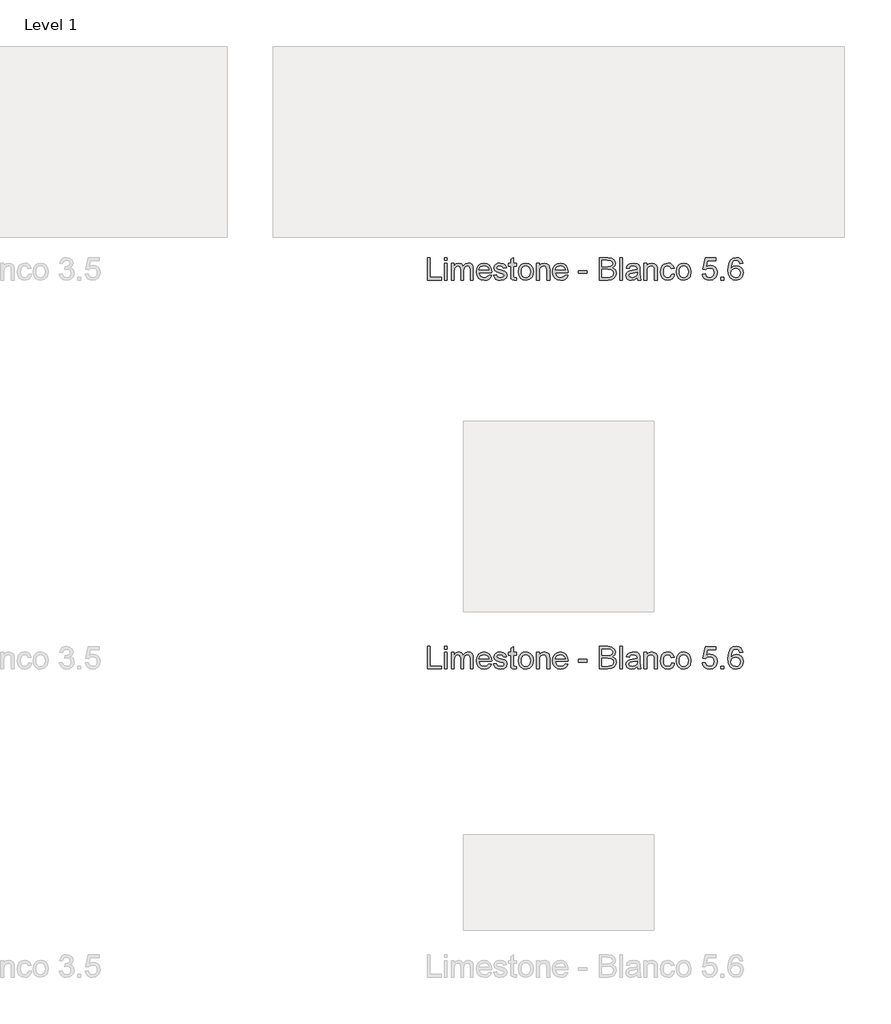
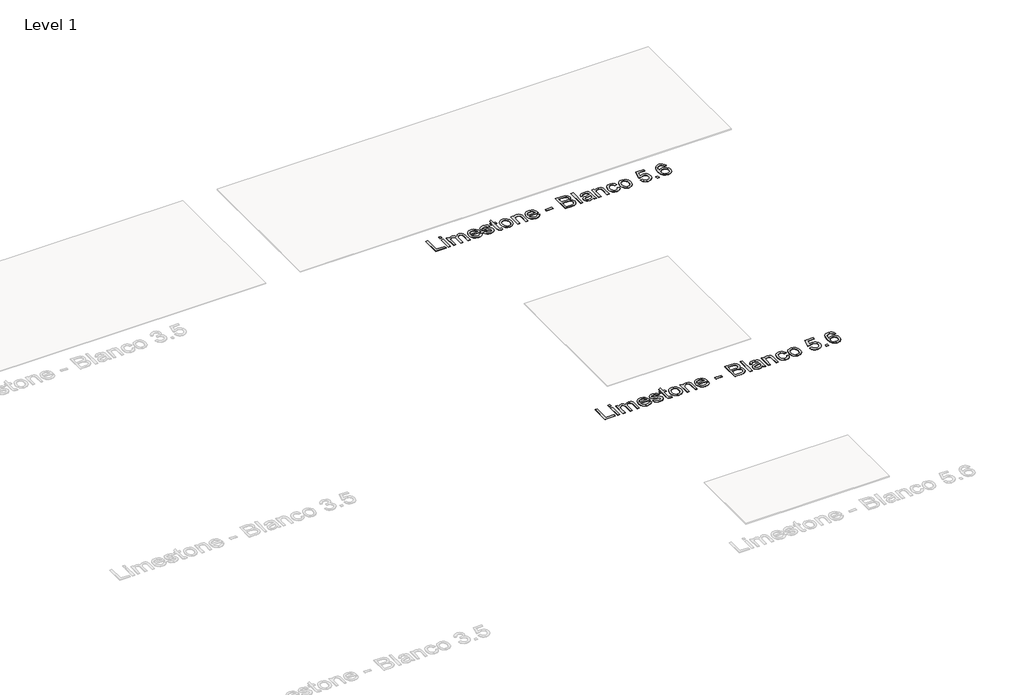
# One storey, part 70 of 80: 2 proxies.
"""IFC4 building model written with IfcOpenShell, lengths in millimetres."""

import ifcopenshell
import ifcopenshell.guid

model = None  # the IFC model being written
_history = None  # IfcOwnerHistory: only IFC2X3 demands one
_inside = {}  # id of a spatial element -> (the spatial element, [elements in it])
_under = {}  # id of a project, library or spatial element -> (it, [spatial elements below it])
_declared = {}  # id of a project -> (the project, [libraries it declares])
_typed = {}  # id of a type object -> (the type object, [elements of that type])
_made_of = {}  # id of a material, layer set ... -> (it, [elements and type objects made of it])


def new_model(schema):
    """Start an empty IFC model of exactly this schema.

    Asked for "IFC4X3", IfcOpenShell would pick the latest addendum, in which some entities
    have other attributes; the version numbers below select the first issue.
    IFC2X3 requires an IfcOwnerHistory on every rooted entity: one is made here for all.
    """
    global model, _history
    if schema == "IFC4X3":
        model = ifcopenshell.file(schema_version=(4, 3, 0, 0))
    else:
        model = ifcopenshell.file(schema=schema)
    _inside.clear()
    _under.clear()
    _declared.clear()
    _typed.clear()
    _made_of.clear()
    _history = None
    if model.schema == "IFC2X3":
        org = make("IfcOrganization", Name="unknown")
        user = make(
            "IfcPersonAndOrganization",
            ThePerson=make("IfcPerson", FamilyName="unknown"),
            TheOrganization=org,
        )
        app = make(
            "IfcApplication",
            ApplicationDeveloper=org,
            Version="unknown",
            ApplicationFullName="unknown",
            ApplicationIdentifier="unknown",
        )
        _history = make(
            "IfcOwnerHistory",
            OwningUser=user,
            OwningApplication=app,
            ChangeAction="ADDED",
            CreationDate=0,
        )
    return model


def make(cls, **values):
    """One entity of the class cls with the attributes given. An attribute that is None is left unset."""
    return model.create_entity(
        cls, **{name: value for name, value in values.items() if value is not None}
    )


def rooted(cls, **values):
    """An entity with a GlobalId (a new one), such as an element, a storey or a relation."""
    return make(cls, GlobalId=ifcopenshell.guid.new(), OwnerHistory=_history, **values)


def si_unit(unit_type, name, prefix=None):
    """IfcSIUnit, for example si_unit("LENGTHUNIT", "METRE", prefix="MILLI")."""
    return make("IfcSIUnit", UnitType=unit_type, Prefix=prefix, Name=name)


def assignment(units):
    """IfcUnitAssignment: the units of a project."""
    return None if units is None else make("IfcUnitAssignment", Units=units)


def point(xyz):
    """IfcCartesianPoint."""
    return None if xyz is None else make("IfcCartesianPoint", Coordinates=xyz)


def direction(xyz):
    """IfcDirection."""
    return None if xyz is None else make("IfcDirection", DirectionRatios=xyz)


def frame(location, z_axis=None, x_axis=None):
    """IfcAxis2Placement3D, a coordinate frame: its origin and axes. An axis left out is left unset."""
    return make(
        "IfcAxis2Placement3D",
        Location=point(location),
        Axis=direction(z_axis),
        RefDirection=direction(x_axis),
    )


def origin():
    """The frame at (0, 0, 0) with its axes left unset."""
    return frame((0.0, 0.0, 0.0))


def origin_with_axes():
    """The frame at (0, 0, 0) with the z axis (0, 0, 1) and the x axis (1, 0, 0) written out."""
    return frame((0.0, 0.0, 0.0), z_axis=(0.0, 0.0, 1.0), x_axis=(1.0, 0.0, 0.0))


def place(relative_to, where):
    """IfcLocalPlacement: puts the frame where relative to a parent placement (None: the world)."""
    return make(
        "IfcLocalPlacement", PlacementRelTo=relative_to, RelativePlacement=where
    )


def context(
    kind, dimensions, precision=None, world=None, true_north=None, identifier=None
):
    """IfcGeometricRepresentationContext, for example the 3D "Model" context."""
    return make(
        "IfcGeometricRepresentationContext",
        ContextIdentifier=identifier,
        ContextType=kind,
        CoordinateSpaceDimension=dimensions,
        Precision=precision,
        WorldCoordinateSystem=world,
        TrueNorth=true_north,
    )


def project(units=None, contexts=None):
    """IfcProject with its units and contexts."""
    return rooted(
        "IfcProject",
        Name="project",
        RepresentationContexts=contexts,
        UnitsInContext=assignment(units),
    )


def spatial(cls, under=None, at=None, **own):
    """A site, building, storey or space (cls), placed at a placement, below another one or the project."""
    s = rooted(cls, ObjectPlacement=at, **own)
    if under is not None:
        _under.setdefault(under.id(), (under, []))[1].append(s)
    return s


def polyline(points):
    """IfcPolyline through the points."""
    return make("IfcPolyline", Points=[point(p) for p in points])


def outline(outer, holes=None, kind="AREA"):
    """IfcArbitraryClosedProfileDef: a profile drawn as a closed curve; with holes, ...WithVoids."""
    if holes is None:
        return make("IfcArbitraryClosedProfileDef", ProfileType=kind, OuterCurve=outer)
    return make(
        "IfcArbitraryProfileDefWithVoids",
        ProfileType=kind,
        OuterCurve=outer,
        InnerCurves=holes,
    )


def extrude(swept, where, along, depth):
    """IfcExtrudedAreaSolid: the profile swept, set in the frame where, extruded along a direction by depth."""
    return make(
        "IfcExtrudedAreaSolid",
        SweptArea=swept,
        Position=where,
        ExtrudedDirection=direction(along),
        Depth=depth,
    )


def shape(context_of_items, identifier, shape_type, items):
    """IfcShapeRepresentation: the items that make up one representation, for example the "Body"."""
    return make(
        "IfcShapeRepresentation",
        ContextOfItems=context_of_items,
        RepresentationIdentifier=identifier,
        RepresentationType=shape_type,
        Items=items,
    )


def made_of(thing, what):
    """Note that an element or type object is made of a material, layer set ...; save() writes the relation."""
    if what is not None:
        _made_of.setdefault(what.id(), (what, []))[1].append(thing)
    return thing


def element(
    cls,
    number,
    at=None,
    inside=None,
    cuts=None,
    type_object=None,
    material=None,
    context=None,
    identifier="Body",
    shape_type=None,
    held_by="IfcProductDefinitionShape",
    body=None,
    shapes=None,
    **own,
):
    """One element of the class cls, such as IfcWall. Its Tag is "e" and its number.

    at: its placement. inside: the storey or other place that contains it. cuts: it is an
    opening in that element (IfcRelVoidsElement). A single representation is given by context,
    identifier, shape_type and body (its items); several are given by shapes. held_by: the class
    of the entity that holds the representations. save() writes the other relations.
    """
    e = rooted(cls, Tag="e%d" % number, ObjectPlacement=at, **own)
    if body is not None:
        shapes = [shape(context, identifier, shape_type, body)]
    if shapes is not None:
        e.Representation = make(held_by, Representations=shapes)
    if inside is not None:
        _inside.setdefault(inside.id(), (inside, []))[1].append(e)
    if cuts is not None:
        rooted(
            "IfcRelVoidsElement", RelatingBuildingElement=cuts, RelatedOpeningElement=e
        )
    if type_object is not None:
        _typed.setdefault(type_object.id(), (type_object, []))[1].append(e)
    return made_of(e, material)


def aggregate(whole, parts):
    """IfcRelAggregates: a whole, such as a stair, and the parts it consists of."""
    return rooted("IfcRelAggregates", RelatingObject=whole, RelatedObjects=parts)


def save(model, path):
    """Write the relations noted so far, then the file.

    IfcRelAggregates (storeys below a building ...), IfcRelContainedInSpatialStructure (elements
    in a storey), IfcRelDefinesByType, IfcRelAssociatesMaterial and IfcRelDeclares: one each for
    every whole, place, type object, material and project.
    """
    for whole, parts in _under.values():
        aggregate(whole, parts)
    for where, things in _inside.values():
        rooted(
            "IfcRelContainedInSpatialStructure",
            RelatedElements=things,
            RelatingStructure=where,
        )
    for kind, things in _typed.values():
        rooted("IfcRelDefinesByType", RelatedObjects=things, RelatingType=kind)
    for what, things in _made_of.values():
        rooted("IfcRelAssociatesMaterial", RelatedObjects=things, RelatingMaterial=what)
    for by, libraries in _declared.values():
        rooted("IfcRelDeclares", RelatingContext=by, RelatedDefinitions=libraries)
    model.write(path)


model = new_model("IFC4")

# Units and contexts
model_context = context("Model", 3, world=origin())
ifc_project = project(units=[si_unit("LENGTHUNIT", "METRE", prefix="MILLI")], contexts=[model_context])

# Site, building, storey
site = spatial("IfcSite", under=ifc_project)
building = spatial("IfcBuilding", under=site)
storey = spatial("IfcBuildingStorey", under=building, Name="Level 1", Elevation=0.0)

# Proxies
placement = place(None, origin())
element("IfcBuildingElementProxy", 1, Name="24\" Arial", ObjectType="24\" Arial", at=placement, inside=storey, context=model_context, shape_type="SweptSolid", body=[
    extrude(outline(polyline([(8085.846969, 10765.2173189), (8085.846969, 10883.3711651), (8100.6161998, 10883.3711651), (8100.6161998, 10779.9865497), (8159.6931229, 10779.9865497), (8159.6931229, 10765.2173189), (8085.846969, 10765.2173189)])), origin_with_axes(), (0.0, 0.0, 1.0), 2.0),
    extrude(outline(polyline([(8174.4623536, 10868.6019343), (8174.4623536, 10883.3711651), (8189.2315844, 10883.3711651), (8189.2315844, 10868.6019343), (8174.4623536, 10868.6019343)])), origin_with_axes(), (0.0, 0.0, 1.0), 2.0),
    extrude(outline(polyline([(8174.4623536, 10765.2173189), (8174.4623536, 10851.9865497), (8189.2315844, 10851.9865497), (8189.2315844, 10765.2173189), (8174.4623536, 10765.2173189)])), origin_with_axes(), (0.0, 0.0, 1.0), 2.0),
    extrude(outline(polyline([(8211.3854306, 10765.2173189), (8211.3854306, 10851.9865497), (8226.1546613, 10851.9865497), (8226.1546613, 10837.7077035), (8236.3085075, 10849.4048189), (8250.7604306, 10853.8327035), (8265.5585075, 10849.3182805), (8273.6931229, 10836.669242), (8285.2171613, 10849.5418381), (8299.7700459, 10853.8327035), (8310.8722094, 10852.0478478), (8319.0825459, 10846.6932805), (8324.1558633, 10837.6247708), (8325.846969, 10824.6980881), (8325.846969, 10765.2173189), (8311.0777383, 10765.2173189), (8311.0777383, 10818.3519343), (8309.7075459, 10830.6836651), (8304.7460075, 10836.7557805), (8296.3085075, 10839.0634728), (8288.3073056, 10837.5851074), (8281.784469, 10833.1500112), (8277.4467286, 10825.4552997), (8276.0008152, 10814.1980881), (8276.0008152, 10765.2173189), (8261.2315844, 10765.2173189), (8261.2315844, 10819.9961651), (8257.8133152, 10834.3038574), (8246.6065844, 10839.0634728), (8235.6738921, 10835.8903958), (8228.4046613, 10826.6019343), (8226.1546613, 10808.9769343), (8226.1546613, 10765.2173189), (8211.3854306, 10765.2173189)])), origin_with_axes(), (0.0, 0.0, 1.0), 2.0),
    extrude(outline(polyline([(8408.7508152, 10791.0634728), (8423.2315844, 10789.2173189), (8418.0140363, 10778.3062612), (8409.6883152, 10770.1500112), (8398.4419209, 10765.0658766), (8384.4623536, 10763.3711651), (8367.1330267, 10766.2954439), (8353.7988921, 10775.0682805), (8345.2964883, 10789.1199631), (8342.4623536, 10807.8807805), (8345.3253344, 10827.2726074), (8353.9142767, 10841.7750112), (8367.0681229, 10850.8182805), (8383.6258152, 10853.8327035), (8399.6678825, 10850.825492), (8412.4863921, 10841.8038574), (8420.8914402, 10827.3302997), (8423.6931229, 10807.9673189), (8423.6065844, 10803.9865497), (8357.2315844, 10803.9865497), (8359.7880748, 10792.9312612), (8365.7267767, 10784.8038574), (8374.2976902, 10779.8062612), (8384.7508152, 10778.1403958), (8399.2315844, 10781.2269343), (8408.7508152, 10791.0634728)]), holes=[polyline([(8357.2315844, 10818.7557805), (8408.9238921, 10818.7557805), (8403.0104306, 10832.1403958), (8394.3998536, 10837.3327035), (8383.5681229, 10839.0634728), (8365.3806229, 10833.5394343), (8359.6582671, 10827.0815016), (8357.2315844, 10818.7557805)])]), origin_with_axes(), (0.0, 0.0, 1.0), 2.0),
    extrude(outline(polyline([(8432.9238921, 10791.0634728), (8447.6931229, 10792.9096266), (8454.5296613, 10781.9480881), (8470.1931229, 10778.1403958), (8485.2508152, 10781.6307805), (8490.1546613, 10789.8230881), (8485.221969, 10796.4577035), (8470.0200459, 10800.669242), (8447.7796613, 10807.8952035), (8438.0729306, 10816.3327035), (8434.7700459, 10828.2461651), (8437.4238921, 10839.2509728), (8444.6642767, 10847.6596266), (8454.0536998, 10852.0298189), (8466.7604306, 10853.8327035), (8484.7315844, 10850.9336651), (8496.1546613, 10843.0875112), (8501.2315844, 10829.8327035), (8486.4623536, 10827.9865497), (8480.909469, 10836.1355881), (8467.9142767, 10839.0634728), (8453.7796613, 10836.2653958), (8449.5392767, 10829.7461651), (8451.2988921, 10825.4480881), (8456.8085075, 10822.1884728), (8469.5296613, 10819.044242), (8491.2075459, 10812.0923189), (8501.2748536, 10804.2173189), (8504.9238921, 10791.3807805), (8500.6402383, 10777.2461651), (8488.2796613, 10766.9913574), (8469.9911998, 10763.3711651), (8455.0993729, 10765.1163574), (8444.2315844, 10770.3519343), (8436.9767767, 10779.0202035), (8432.9238921, 10791.0634728)])), origin_with_axes(), (0.0, 0.0, 1.0), 2.0),
    extrude(outline(polyline([(8552.9238921, 10777.5346266), (8554.7700459, 10764.7846266), (8543.721969, 10763.3711651), (8531.346969, 10765.8230881), (8525.1738921, 10772.2557805), (8523.3854306, 10789.0153958), (8523.3854306, 10837.2173189), (8512.3085075, 10837.2173189), (8512.3085075, 10851.9865497), (8523.3854306, 10851.9865497), (8523.3854306, 10873.0730881), (8538.1546613, 10881.7557805), (8538.1546613, 10851.9865497), (8552.9238921, 10851.9865497), (8552.9238921, 10837.2173189), (8538.1546613, 10837.2173189), (8538.1546613, 10789.4480881), (8538.9335075, 10781.8327035), (8541.4575459, 10779.1355881), (8546.4911998, 10778.1403958), (8552.9238921, 10777.5346266)])), origin_with_axes(), (0.0, 0.0, 1.0), 2.0),
    extrude(outline(polyline([(8564.0008152, 10808.6019343), (8567.1955267, 10829.5226074), (8576.7796613, 10844.2269343), (8588.6210075, 10851.4312612), (8602.7988921, 10853.8327035), (8618.3145171, 10850.9084247), (8630.7075459, 10842.1355881), (8638.831344, 10828.2065016), (8641.5392767, 10809.8134728), (8636.7508152, 10783.5346266), (8622.8036998, 10768.6644343), (8602.7988921, 10763.3711651), (8587.0957671, 10766.2846266), (8574.7171613, 10775.0250112), (8566.6799017, 10789.2461651), (8564.0008152, 10808.6019343)]), holes=[polyline([(8578.7700459, 10808.6307805), (8580.4791806, 10795.2641939), (8585.6065844, 10785.7413574), (8593.3229306, 10780.0406362), (8602.7988921, 10778.1403958), (8612.2315844, 10780.0514535), (8619.9335075, 10785.7846266), (8625.0609113, 10795.4336651), (8626.7700459, 10809.0923189), (8625.050094, 10822.0694824), (8619.8902383, 10831.4625112), (8612.1774979, 10837.1632324), (8602.7988921, 10839.0634728), (8593.3229306, 10837.1704439), (8585.6065844, 10831.4913574), (8580.4791806, 10821.9901555), (8578.7700459, 10808.6307805)])]), origin_with_axes(), (0.0, 0.0, 1.0), 2.0),
    extrude(outline(polyline([(8658.1546613, 10765.2173189), (8658.1546613, 10851.9865497), (8672.9238921, 10851.9865497), (8672.9238921, 10839.8711651), (8684.2171613, 10850.3423189), (8699.6354306, 10853.8327035), (8713.5825459, 10851.0202035), (8723.1017767, 10843.6355881), (8727.5296613, 10832.7750112), (8728.3085075, 10818.4961651), (8728.3085075, 10765.2173189), (8713.5392767, 10765.2173189), (8713.5392767, 10816.5057805), (8711.8373536, 10829.5730881), (8705.8229306, 10836.481742), (8695.6835075, 10839.0634728), (8679.659469, 10833.2653958), (8674.6077863, 10824.8639535), (8672.9238921, 10811.2557805), (8672.9238921, 10765.2173189), (8658.1546613, 10765.2173189)])), origin_with_axes(), (0.0, 0.0, 1.0), 2.0),
    extrude(outline(polyline([(8809.3661998, 10791.0634728), (8823.846969, 10789.2173189), (8818.6294209, 10778.3062612), (8810.3036998, 10770.1500112), (8799.0573056, 10765.0658766), (8785.0777383, 10763.3711651), (8767.7484113, 10766.2954439), (8754.4142767, 10775.0682805), (8745.9118729, 10789.1199631), (8743.0777383, 10807.8807805), (8745.940719, 10827.2726074), (8754.5296613, 10841.7750112), (8767.6835075, 10850.8182805), (8784.2411998, 10853.8327035), (8800.2832671, 10850.825492), (8813.1017767, 10841.8038574), (8821.5068248, 10827.3302997), (8824.3085075, 10807.9673189), (8824.221969, 10803.9865497), (8757.846969, 10803.9865497), (8760.4034594, 10792.9312612), (8766.3421613, 10784.8038574), (8774.9130748, 10779.8062612), (8785.3661998, 10778.1403958), (8799.846969, 10781.2269343), (8809.3661998, 10791.0634728)]), holes=[polyline([(8757.846969, 10818.7557805), (8809.5392767, 10818.7557805), (8803.6258152, 10832.1403958), (8795.0152383, 10837.3327035), (8784.1835075, 10839.0634728), (8765.9960075, 10833.5394343), (8760.2736517, 10827.0815016), (8757.846969, 10818.7557805)])]), origin_with_axes(), (0.0, 0.0, 1.0), 2.0),
    extrude(outline(polyline([(8877.846969, 10800.294242), (8877.846969, 10815.0634728), (8924.0008152, 10815.0634728), (8924.0008152, 10800.294242), (8877.846969, 10800.294242)])), origin_with_axes(), (0.0, 0.0, 1.0), 2.0),
    extrude(outline(polyline([(8988.6161998, 10765.2173189), (8988.6161998, 10883.3711651), (9033.7027383, 10883.3711651), (9055.784469, 10879.8952035), (9068.8229306, 10869.2077035), (9073.5392767, 10854.0923189), (9069.5729306, 10840.2894343), (9057.5873536, 10829.8327035), (9072.1402383, 10818.8134728), (9077.2315844, 10800.4384728), (9073.7556229, 10784.5586651), (9065.1450459, 10773.2509728), (9052.2940844, 10767.2509728), (9033.3565844, 10765.2173189), (8988.6161998, 10765.2173189)]), holes=[polyline([(9003.3854306, 10779.9865497), (9033.6738921, 10779.9865497), (9044.6354306, 10780.5634728), (9053.909469, 10783.7798189), (9060.0536998, 10790.3423189), (9062.4623536, 10800.294242), (9059.6354306, 10811.7750112), (9050.4767767, 10818.6259728), (9032.2315844, 10820.6019343), (9003.3854306, 10820.6019343), (9003.3854306, 10779.9865497)]), polyline([(9003.3854306, 10835.3711651), (9030.3565844, 10835.3711651), (9046.1065844, 10836.6403958), (9055.5825459, 10842.106742), (9058.7700459, 10851.7269343), (9055.7988921, 10861.3615497), (9047.2892767, 10867.0586651), (9028.3085075, 10868.6019343), (9003.3854306, 10868.6019343), (9003.3854306, 10835.3711651)])]), origin_with_axes(), (0.0, 0.0, 1.0), 2.0),
    extrude(outline(polyline([(9095.6931229, 10765.2173189), (9095.6931229, 10883.3711651), (9110.4623536, 10883.3711651), (9110.4623536, 10765.2173189), (9095.6931229, 10765.2173189)])), origin_with_axes(), (0.0, 0.0, 1.0), 2.0),
    extrude(outline(polyline([(9188.0008152, 10776.294242), (9173.6786998, 10766.2846266), (9157.8565844, 10763.3711651), (9145.5140363, 10765.1235689), (9136.409469, 10770.3807805), (9130.7952863, 10778.3639535), (9128.9238921, 10788.294242), (9131.7508152, 10799.9769343), (9139.1786998, 10808.4577035), (9149.5200459, 10813.3038574), (9162.2988921, 10815.5250112), (9187.9142767, 10820.6019343), (9188.0008152, 10823.8903958), (9183.9335075, 10834.794242), (9167.6065844, 10839.0634728), (9152.6642767, 10836.2221266), (9145.5392767, 10826.1403958), (9130.7700459, 10827.9865497), (9137.159469, 10842.4096266), (9150.0248536, 10850.8615497), (9169.5104306, 10853.8327035), (9187.409469, 10851.2077035), (9197.5200459, 10844.6163574), (9202.0488921, 10834.5923189), (9202.7700459, 10821.669242), (9202.7700459, 10803.294242), (9203.5200459, 10777.6355881), (9206.4623536, 10765.2173189), (9191.6931229, 10765.2173189), (9188.0008152, 10776.294242)]), holes=[polyline([(9188.0008152, 10805.8327035), (9164.1738921, 10801.3038574), (9151.4671613, 10798.9096266), (9145.7123536, 10795.0153958), (9143.6931229, 10789.3327035), (9148.0921613, 10781.3423189), (9161.0008152, 10778.1403958), (9175.9431229, 10781.6740497), (9185.5777383, 10790.2269343), (9187.9142767, 10801.6500112), (9188.0008152, 10805.8327035)])]), origin_with_axes(), (0.0, 0.0, 1.0), 2.0),
    extrude(outline(polyline([(9223.0777383, 10765.2173189), (9223.0777383, 10851.9865497), (9237.846969, 10851.9865497), (9237.846969, 10839.8711651), (9249.1402383, 10850.3423189), (9264.5585075, 10853.8327035), (9278.5056229, 10851.0202035), (9288.0248536, 10843.6355881), (9292.4527383, 10832.7750112), (9293.2315844, 10818.4961651), (9293.2315844, 10765.2173189), (9278.4623536, 10765.2173189), (9278.4623536, 10816.5057805), (9276.7604306, 10829.5730881), (9270.7460075, 10836.481742), (9260.6065844, 10839.0634728), (9244.5825459, 10833.2653958), (9239.5308633, 10824.8639535), (9237.846969, 10811.2557805), (9237.846969, 10765.2173189), (9223.0777383, 10765.2173189)])), origin_with_axes(), (0.0, 0.0, 1.0), 2.0),
    extrude(outline(polyline([(9368.9238921, 10796.6019343), (9383.6931229, 10794.7557805), (9379.5753344, 10781.6199631), (9371.8373536, 10771.6932805), (9361.2075459, 10765.4516939), (9348.4142767, 10763.3711651), (9332.7039402, 10766.2738093), (9320.4190844, 10774.981742), (9312.4899979, 10789.1127516), (9309.846969, 10808.2846266), (9314.3613921, 10832.8182805), (9320.0585075, 10842.0165978), (9328.1210075, 10848.5827035), (9348.2123536, 10853.8327035), (9360.6919209, 10852.0298189), (9370.6690844, 10846.6211651), (9377.8265363, 10837.8952035), (9381.846969, 10826.1403958), (9367.0777383, 10824.294242), (9360.2267767, 10835.356742), (9348.3277383, 10839.0634728), (9338.7832671, 10837.2389535), (9331.2075459, 10831.7653958), (9326.2640363, 10822.3471266), (9324.6161998, 10808.6884728), (9326.2279786, 10794.8459247), (9331.0633152, 10785.3952035), (9338.5020171, 10779.9540978), (9347.9238921, 10778.1403958), (9361.8421613, 10782.669242), (9368.9238921, 10796.6019343)])), origin_with_axes(), (0.0, 0.0, 1.0), 2.0),
    extrude(outline(polyline([(9392.9238921, 10808.6019343), (9396.1186036, 10829.5226074), (9405.7027383, 10844.2269343), (9417.5440844, 10851.4312612), (9431.721969, 10853.8327035), (9447.237594, 10850.9084247), (9459.6306229, 10842.1355881), (9467.7544209, 10828.2065016), (9470.4623536, 10809.8134728), (9465.6738921, 10783.5346266), (9451.7267767, 10768.6644343), (9431.721969, 10763.3711651), (9416.018844, 10766.2846266), (9403.6402383, 10775.0250112), (9395.6029786, 10789.2461651), (9392.9238921, 10808.6019343)]), holes=[polyline([(9407.6931229, 10808.6307805), (9409.4022575, 10795.2641939), (9414.5296613, 10785.7413574), (9422.2460075, 10780.0406362), (9431.721969, 10778.1403958), (9441.1546613, 10780.0514535), (9448.8565844, 10785.7846266), (9453.9839883, 10795.4336651), (9455.6931229, 10809.0923189), (9453.9731709, 10822.0694824), (9448.8133152, 10831.4625112), (9441.1005748, 10837.1632324), (9431.721969, 10839.0634728), (9422.2460075, 10837.1704439), (9414.5296613, 10831.4913574), (9409.4022575, 10821.9901555), (9407.6931229, 10808.6307805)])]), origin_with_axes(), (0.0, 0.0, 1.0), 2.0),
    extrude(outline(polyline([(9529.5392767, 10796.6019343), (9544.3085075, 10798.4480881), (9551.7508152, 10783.231742), (9567.1835075, 10778.1403958), (9577.7700459, 10779.9108285), (9585.7027383, 10785.2221266), (9590.6570652, 10793.4613093), (9592.3085075, 10804.0153958), (9590.7616325, 10813.9528958), (9586.1210075, 10821.5538574), (9578.3505748, 10826.3783766), (9567.4142767, 10827.9865497), (9554.4479306, 10825.419242), (9546.1546613, 10818.7557805), (9531.3854306, 10820.6019343), (9544.3085075, 10881.5250112), (9601.5392767, 10881.5250112), (9601.5392767, 10866.7557805), (9556.2508152, 10866.7557805), (9549.9335075, 10834.2173189), (9560.4839883, 10840.6211651), (9571.5392767, 10842.7557805), (9585.3385556, 10840.1091458), (9596.7940844, 10832.169242), (9604.5068248, 10820.0682805), (9607.0777383, 10804.9384728), (9604.7628344, 10790.169242), (9597.8181229, 10777.5346266), (9584.5200459, 10766.9120305), (9567.1258152, 10763.3711651), (9552.6198056, 10765.6464055), (9541.0633152, 10772.4721266), (9533.1414402, 10783.0550593), (9529.5392767, 10796.6019343)])), origin_with_axes(), (0.0, 0.0, 1.0), 2.0),
    extrude(outline(polyline([(9627.3854306, 10765.2173189), (9627.3854306, 10779.9865497), (9642.1546613, 10779.9865497), (9642.1546613, 10765.2173189), (9627.3854306, 10765.2173189)])), origin_with_axes(), (0.0, 0.0, 1.0), 2.0),
    extrude(outline(polyline([(9741.846969, 10851.9865497), (9727.0777383, 10850.1403958), (9721.4815844, 10862.4577035), (9714.7820652, 10867.0658766), (9706.6835075, 10868.6019343), (9693.3565844, 10865.0250112), (9683.2748536, 10851.5971266), (9679.0777383, 10825.2750112), (9692.1017767, 10837.0586651), (9708.2411998, 10840.9096266), (9721.8854306, 10838.2774151), (9733.3373536, 10830.3807805), (9741.1041806, 10818.3158766), (9743.6931229, 10803.1788574), (9738.8181229, 10782.7990497), (9725.4046613, 10768.3759728), (9706.0488921, 10763.3711651), (9689.2928825, 10766.6884728), (9675.9479306, 10776.6403958), (9667.2183633, 10794.2077035), (9664.3085075, 10820.3711651), (9667.5392767, 10849.7870305), (9677.2315844, 10869.9000112), (9690.4647575, 10880.0033766), (9707.6065844, 10883.3711651), (9720.565719, 10881.2870305), (9730.9431229, 10875.0346266), (9738.2123536, 10865.1043381), (9741.846969, 10851.9865497)]), holes=[polyline([(9679.0777383, 10803.4096266), (9682.4960075, 10790.6163574), (9691.5825459, 10781.3278958), (9704.8950459, 10778.1403958), (9714.6414402, 10779.7918381), (9722.3036998, 10784.7461651), (9727.268844, 10792.5346266), (9728.9238921, 10802.6884728), (9727.2904786, 10812.434867), (9722.3902383, 10819.8663574), (9714.5981709, 10824.5718862), (9704.2892767, 10826.1403958), (9694.5573056, 10824.5718862), (9686.4190844, 10819.8663574), (9680.9130748, 10812.6151555), (9679.0777383, 10803.4096266)])]), origin_with_axes(), (0.0, 0.0, 1.0), 2.0),
])
element("IfcBuildingElementProxy", 2, Name="24\" Arial", ObjectType="24\" Arial", at=placement, inside=storey, context=model_context, shape_type="SweptSolid", body=[
    extrude(outline(polyline([(8085.846969, 8724.5734229), (8085.846969, 8842.727269), (8100.6161998, 8842.727269), (8100.6161998, 8739.3426536), (8159.6931229, 8739.3426536), (8159.6931229, 8724.5734229), (8085.846969, 8724.5734229)])), origin_with_axes(), (0.0, 0.0, 1.0), 2.0),
    extrude(outline(polyline([(8174.4623536, 8827.9580383), (8174.4623536, 8842.727269), (8189.2315844, 8842.727269), (8189.2315844, 8827.9580383), (8174.4623536, 8827.9580383)])), origin_with_axes(), (0.0, 0.0, 1.0), 2.0),
    extrude(outline(polyline([(8174.4623536, 8724.5734229), (8174.4623536, 8811.3426536), (8189.2315844, 8811.3426536), (8189.2315844, 8724.5734229), (8174.4623536, 8724.5734229)])), origin_with_axes(), (0.0, 0.0, 1.0), 2.0),
    extrude(outline(polyline([(8211.3854306, 8724.5734229), (8211.3854306, 8811.3426536), (8226.1546613, 8811.3426536), (8226.1546613, 8797.0638075), (8236.3085075, 8808.7609229), (8250.7604306, 8813.1888075), (8265.5585075, 8808.6743844), (8273.6931229, 8796.025346), (8285.2171613, 8808.8979421), (8299.7700459, 8813.1888075), (8310.8722094, 8811.4039517), (8319.0825459, 8806.0493844), (8324.1558633, 8796.9808748), (8325.846969, 8784.0541921), (8325.846969, 8724.5734229), (8311.0777383, 8724.5734229), (8311.0777383, 8777.7080383), (8309.7075459, 8790.039769), (8304.7460075, 8796.1118844), (8296.3085075, 8798.4195767), (8288.3073056, 8796.9412113), (8281.784469, 8792.5061152), (8277.4467286, 8784.8114036), (8276.0008152, 8773.5541921), (8276.0008152, 8724.5734229), (8261.2315844, 8724.5734229), (8261.2315844, 8779.352269), (8257.8133152, 8793.6599613), (8246.6065844, 8798.4195767), (8235.6738921, 8795.2464998), (8228.4046613, 8785.9580383), (8226.1546613, 8768.3330383), (8226.1546613, 8724.5734229), (8211.3854306, 8724.5734229)])), origin_with_axes(), (0.0, 0.0, 1.0), 2.0),
    extrude(outline(polyline([(8408.7508152, 8750.4195767), (8423.2315844, 8748.5734229), (8418.0140363, 8737.6623652), (8409.6883152, 8729.5061152), (8398.4419209, 8724.4219806), (8384.4623536, 8722.727269), (8367.1330267, 8725.6515479), (8353.7988921, 8734.4243844), (8345.2964883, 8748.4760671), (8342.4623536, 8767.2368844), (8345.3253344, 8786.6287113), (8353.9142767, 8801.1311152), (8367.0681229, 8810.1743844), (8383.6258152, 8813.1888075), (8399.6678825, 8810.181596), (8412.4863921, 8801.1599613), (8420.8914402, 8786.6864036), (8423.6931229, 8767.3234229), (8423.6065844, 8763.3426536), (8357.2315844, 8763.3426536), (8359.7880748, 8752.2873652), (8365.7267767, 8744.1599613), (8374.2976902, 8739.1623652), (8384.7508152, 8737.4964998), (8399.2315844, 8740.5830383), (8408.7508152, 8750.4195767)]), holes=[polyline([(8357.2315844, 8778.1118844), (8408.9238921, 8778.1118844), (8403.0104306, 8791.4964998), (8394.3998536, 8796.6888075), (8383.5681229, 8798.4195767), (8365.3806229, 8792.8955383), (8359.6582671, 8786.4376056), (8357.2315844, 8778.1118844)])]), origin_with_axes(), (0.0, 0.0, 1.0), 2.0),
    extrude(outline(polyline([(8432.9238921, 8750.4195767), (8447.6931229, 8752.2657306), (8454.5296613, 8741.3041921), (8470.1931229, 8737.4964998), (8485.2508152, 8740.9868844), (8490.1546613, 8749.1791921), (8485.221969, 8755.8138075), (8470.0200459, 8760.025346), (8447.7796613, 8767.2513075), (8438.0729306, 8775.6888075), (8434.7700459, 8787.602269), (8437.4238921, 8798.6070767), (8444.6642767, 8807.0157306), (8454.0536998, 8811.3859229), (8466.7604306, 8813.1888075), (8484.7315844, 8810.289769), (8496.1546613, 8802.4436152), (8501.2315844, 8789.1888075), (8486.4623536, 8787.3426536), (8480.909469, 8795.4916921), (8467.9142767, 8798.4195767), (8453.7796613, 8795.6214998), (8449.5392767, 8789.102269), (8451.2988921, 8784.8041921), (8456.8085075, 8781.5445767), (8469.5296613, 8778.400346), (8491.2075459, 8771.4484229), (8501.2748536, 8763.5734229), (8504.9238921, 8750.7368844), (8500.6402383, 8736.602269), (8488.2796613, 8726.3474613), (8469.9911998, 8722.727269), (8455.0993729, 8724.4724613), (8444.2315844, 8729.7080383), (8436.9767767, 8738.3763075), (8432.9238921, 8750.4195767)])), origin_with_axes(), (0.0, 0.0, 1.0), 2.0),
    extrude(outline(polyline([(8552.9238921, 8736.8907306), (8554.7700459, 8724.1407306), (8543.721969, 8722.727269), (8531.346969, 8725.1791921), (8525.1738921, 8731.6118844), (8523.3854306, 8748.3714998), (8523.3854306, 8796.5734229), (8512.3085075, 8796.5734229), (8512.3085075, 8811.3426536), (8523.3854306, 8811.3426536), (8523.3854306, 8832.4291921), (8538.1546613, 8841.1118844), (8538.1546613, 8811.3426536), (8552.9238921, 8811.3426536), (8552.9238921, 8796.5734229), (8538.1546613, 8796.5734229), (8538.1546613, 8748.8041921), (8538.9335075, 8741.1888075), (8541.4575459, 8738.4916921), (8546.4911998, 8737.4964998), (8552.9238921, 8736.8907306)])), origin_with_axes(), (0.0, 0.0, 1.0), 2.0),
    extrude(outline(polyline([(8564.0008152, 8767.9580383), (8567.1955267, 8788.8787113), (8576.7796613, 8803.5830383), (8588.6210075, 8810.7873652), (8602.7988921, 8813.1888075), (8618.3145171, 8810.2645286), (8630.7075459, 8801.4916921), (8638.831344, 8787.5626056), (8641.5392767, 8769.1695767), (8636.7508152, 8742.8907306), (8622.8036998, 8728.0205383), (8602.7988921, 8722.727269), (8587.0957671, 8725.6407306), (8574.7171613, 8734.3811152), (8566.6799017, 8748.602269), (8564.0008152, 8767.9580383)]), holes=[polyline([(8578.7700459, 8767.9868844), (8580.4791806, 8754.6202979), (8585.6065844, 8745.0974613), (8593.3229306, 8739.3967402), (8602.7988921, 8737.4964998), (8612.2315844, 8739.4075575), (8619.9335075, 8745.1407306), (8625.0609113, 8754.789769), (8626.7700459, 8768.4484229), (8625.050094, 8781.4255863), (8619.8902383, 8790.8186152), (8612.1774979, 8796.5193363), (8602.7988921, 8798.4195767), (8593.3229306, 8796.5265479), (8585.6065844, 8790.8474613), (8580.4791806, 8781.3462594), (8578.7700459, 8767.9868844)])]), origin_with_axes(), (0.0, 0.0, 1.0), 2.0),
    extrude(outline(polyline([(8658.1546613, 8724.5734229), (8658.1546613, 8811.3426536), (8672.9238921, 8811.3426536), (8672.9238921, 8799.227269), (8684.2171613, 8809.6984229), (8699.6354306, 8813.1888075), (8713.5825459, 8810.3763075), (8723.1017767, 8802.9916921), (8727.5296613, 8792.1311152), (8728.3085075, 8777.852269), (8728.3085075, 8724.5734229), (8713.5392767, 8724.5734229), (8713.5392767, 8775.8618844), (8711.8373536, 8788.9291921), (8705.8229306, 8795.837846), (8695.6835075, 8798.4195767), (8679.659469, 8792.6214998), (8674.6077863, 8784.2200575), (8672.9238921, 8770.6118844), (8672.9238921, 8724.5734229), (8658.1546613, 8724.5734229)])), origin_with_axes(), (0.0, 0.0, 1.0), 2.0),
    extrude(outline(polyline([(8809.3661998, 8750.4195767), (8823.846969, 8748.5734229), (8818.6294209, 8737.6623652), (8810.3036998, 8729.5061152), (8799.0573056, 8724.4219806), (8785.0777383, 8722.727269), (8767.7484113, 8725.6515479), (8754.4142767, 8734.4243844), (8745.9118729, 8748.4760671), (8743.0777383, 8767.2368844), (8745.940719, 8786.6287113), (8754.5296613, 8801.1311152), (8767.6835075, 8810.1743844), (8784.2411998, 8813.1888075), (8800.2832671, 8810.181596), (8813.1017767, 8801.1599613), (8821.5068248, 8786.6864036), (8824.3085075, 8767.3234229), (8824.221969, 8763.3426536), (8757.846969, 8763.3426536), (8760.4034594, 8752.2873652), (8766.3421613, 8744.1599613), (8774.9130748, 8739.1623652), (8785.3661998, 8737.4964998), (8799.846969, 8740.5830383), (8809.3661998, 8750.4195767)]), holes=[polyline([(8757.846969, 8778.1118844), (8809.5392767, 8778.1118844), (8803.6258152, 8791.4964998), (8795.0152383, 8796.6888075), (8784.1835075, 8798.4195767), (8765.9960075, 8792.8955383), (8760.2736517, 8786.4376056), (8757.846969, 8778.1118844)])]), origin_with_axes(), (0.0, 0.0, 1.0), 2.0),
    extrude(outline(polyline([(8877.846969, 8759.650346), (8877.846969, 8774.4195767), (8924.0008152, 8774.4195767), (8924.0008152, 8759.650346), (8877.846969, 8759.650346)])), origin_with_axes(), (0.0, 0.0, 1.0), 2.0),
    extrude(outline(polyline([(8988.6161998, 8724.5734229), (8988.6161998, 8842.727269), (9033.7027383, 8842.727269), (9055.784469, 8839.2513075), (9068.8229306, 8828.5638075), (9073.5392767, 8813.4484229), (9069.5729306, 8799.6455383), (9057.5873536, 8789.1888075), (9072.1402383, 8778.1695767), (9077.2315844, 8759.7945767), (9073.7556229, 8743.914769), (9065.1450459, 8732.6070767), (9052.2940844, 8726.6070767), (9033.3565844, 8724.5734229), (8988.6161998, 8724.5734229)]), holes=[polyline([(9003.3854306, 8739.3426536), (9033.6738921, 8739.3426536), (9044.6354306, 8739.9195767), (9053.909469, 8743.1359229), (9060.0536998, 8749.6984229), (9062.4623536, 8759.650346), (9059.6354306, 8771.1311152), (9050.4767767, 8777.9820767), (9032.2315844, 8779.9580383), (9003.3854306, 8779.9580383), (9003.3854306, 8739.3426536)]), polyline([(9003.3854306, 8794.727269), (9030.3565844, 8794.727269), (9046.1065844, 8795.9964998), (9055.5825459, 8801.462846), (9058.7700459, 8811.0830383), (9055.7988921, 8820.7176536), (9047.2892767, 8826.414769), (9028.3085075, 8827.9580383), (9003.3854306, 8827.9580383), (9003.3854306, 8794.727269)])]), origin_with_axes(), (0.0, 0.0, 1.0), 2.0),
    extrude(outline(polyline([(9095.6931229, 8724.5734229), (9095.6931229, 8842.727269), (9110.4623536, 8842.727269), (9110.4623536, 8724.5734229), (9095.6931229, 8724.5734229)])), origin_with_axes(), (0.0, 0.0, 1.0), 2.0),
    extrude(outline(polyline([(9188.0008152, 8735.650346), (9173.6786998, 8725.6407306), (9157.8565844, 8722.727269), (9145.5140363, 8724.4796729), (9136.409469, 8729.7368844), (9130.7952863, 8737.7200575), (9128.9238921, 8747.650346), (9131.7508152, 8759.3330383), (9139.1786998, 8767.8138075), (9149.5200459, 8772.6599613), (9162.2988921, 8774.8811152), (9187.9142767, 8779.9580383), (9188.0008152, 8783.2464998), (9183.9335075, 8794.150346), (9167.6065844, 8798.4195767), (9152.6642767, 8795.5782306), (9145.5392767, 8785.4964998), (9130.7700459, 8787.3426536), (9137.159469, 8801.7657306), (9150.0248536, 8810.2176536), (9169.5104306, 8813.1888075), (9187.409469, 8810.5638075), (9197.5200459, 8803.9724613), (9202.0488921, 8793.9484229), (9202.7700459, 8781.025346), (9202.7700459, 8762.650346), (9203.5200459, 8736.9916921), (9206.4623536, 8724.5734229), (9191.6931229, 8724.5734229), (9188.0008152, 8735.650346)]), holes=[polyline([(9188.0008152, 8765.1888075), (9164.1738921, 8760.6599613), (9151.4671613, 8758.2657306), (9145.7123536, 8754.3714998), (9143.6931229, 8748.6888075), (9148.0921613, 8740.6984229), (9161.0008152, 8737.4964998), (9175.9431229, 8741.0301536), (9185.5777383, 8749.5830383), (9187.9142767, 8761.0061152), (9188.0008152, 8765.1888075)])]), origin_with_axes(), (0.0, 0.0, 1.0), 2.0),
    extrude(outline(polyline([(9223.0777383, 8724.5734229), (9223.0777383, 8811.3426536), (9237.846969, 8811.3426536), (9237.846969, 8799.227269), (9249.1402383, 8809.6984229), (9264.5585075, 8813.1888075), (9278.5056229, 8810.3763075), (9288.0248536, 8802.9916921), (9292.4527383, 8792.1311152), (9293.2315844, 8777.852269), (9293.2315844, 8724.5734229), (9278.4623536, 8724.5734229), (9278.4623536, 8775.8618844), (9276.7604306, 8788.9291921), (9270.7460075, 8795.837846), (9260.6065844, 8798.4195767), (9244.5825459, 8792.6214998), (9239.5308633, 8784.2200575), (9237.846969, 8770.6118844), (9237.846969, 8724.5734229), (9223.0777383, 8724.5734229)])), origin_with_axes(), (0.0, 0.0, 1.0), 2.0),
    extrude(outline(polyline([(9368.9238921, 8755.9580383), (9383.6931229, 8754.1118844), (9379.5753344, 8740.9760671), (9371.8373536, 8731.0493844), (9361.2075459, 8724.8077979), (9348.4142767, 8722.727269), (9332.7039402, 8725.6299133), (9320.4190844, 8734.337846), (9312.4899979, 8748.4688556), (9309.846969, 8767.6407306), (9314.3613921, 8792.1743844), (9320.0585075, 8801.3727017), (9328.1210075, 8807.9388075), (9348.2123536, 8813.1888075), (9360.6919209, 8811.3859229), (9370.6690844, 8805.977269), (9377.8265363, 8797.2513075), (9381.846969, 8785.4964998), (9367.0777383, 8783.650346), (9360.2267767, 8794.712846), (9348.3277383, 8798.4195767), (9338.7832671, 8796.5950575), (9331.2075459, 8791.1214998), (9326.2640363, 8781.7032306), (9324.6161998, 8768.0445767), (9326.2279786, 8754.2020286), (9331.0633152, 8744.7513075), (9338.5020171, 8739.3102017), (9347.9238921, 8737.4964998), (9361.8421613, 8742.025346), (9368.9238921, 8755.9580383)])), origin_with_axes(), (0.0, 0.0, 1.0), 2.0),
    extrude(outline(polyline([(9392.9238921, 8767.9580383), (9396.1186036, 8788.8787113), (9405.7027383, 8803.5830383), (9417.5440844, 8810.7873652), (9431.721969, 8813.1888075), (9447.237594, 8810.2645286), (9459.6306229, 8801.4916921), (9467.7544209, 8787.5626056), (9470.4623536, 8769.1695767), (9465.6738921, 8742.8907306), (9451.7267767, 8728.0205383), (9431.721969, 8722.727269), (9416.018844, 8725.6407306), (9403.6402383, 8734.3811152), (9395.6029786, 8748.602269), (9392.9238921, 8767.9580383)]), holes=[polyline([(9407.6931229, 8767.9868844), (9409.4022575, 8754.6202979), (9414.5296613, 8745.0974613), (9422.2460075, 8739.3967402), (9431.721969, 8737.4964998), (9441.1546613, 8739.4075575), (9448.8565844, 8745.1407306), (9453.9839883, 8754.789769), (9455.6931229, 8768.4484229), (9453.9731709, 8781.4255863), (9448.8133152, 8790.8186152), (9441.1005748, 8796.5193363), (9431.721969, 8798.4195767), (9422.2460075, 8796.5265479), (9414.5296613, 8790.8474613), (9409.4022575, 8781.3462594), (9407.6931229, 8767.9868844)])]), origin_with_axes(), (0.0, 0.0, 1.0), 2.0),
    extrude(outline(polyline([(9529.5392767, 8755.9580383), (9544.3085075, 8757.8041921), (9551.7508152, 8742.587846), (9567.1835075, 8737.4964998), (9577.7700459, 8739.2669325), (9585.7027383, 8744.5782306), (9590.6570652, 8752.8174133), (9592.3085075, 8763.3714998), (9590.7616325, 8773.3089998), (9586.1210075, 8780.9099613), (9578.3505748, 8785.7344806), (9567.4142767, 8787.3426536), (9554.4479306, 8784.775346), (9546.1546613, 8778.1118844), (9531.3854306, 8779.9580383), (9544.3085075, 8840.8811152), (9601.5392767, 8840.8811152), (9601.5392767, 8826.1118844), (9556.2508152, 8826.1118844), (9549.9335075, 8793.5734229), (9560.4839883, 8799.977269), (9571.5392767, 8802.1118844), (9585.3385556, 8799.4652498), (9596.7940844, 8791.525346), (9604.5068248, 8779.4243844), (9607.0777383, 8764.2945767), (9604.7628344, 8749.525346), (9597.8181229, 8736.8907306), (9584.5200459, 8726.2681344), (9567.1258152, 8722.727269), (9552.6198056, 8725.0025094), (9541.0633152, 8731.8282306), (9533.1414402, 8742.4111633), (9529.5392767, 8755.9580383)])), origin_with_axes(), (0.0, 0.0, 1.0), 2.0),
    extrude(outline(polyline([(9627.3854306, 8724.5734229), (9627.3854306, 8739.3426536), (9642.1546613, 8739.3426536), (9642.1546613, 8724.5734229), (9627.3854306, 8724.5734229)])), origin_with_axes(), (0.0, 0.0, 1.0), 2.0),
    extrude(outline(polyline([(9741.846969, 8811.3426536), (9727.0777383, 8809.4964998), (9721.4815844, 8821.8138075), (9714.7820652, 8826.4219806), (9706.6835075, 8827.9580383), (9693.3565844, 8824.3811152), (9683.2748536, 8810.9532306), (9679.0777383, 8784.6311152), (9692.1017767, 8796.414769), (9708.2411998, 8800.2657306), (9721.8854306, 8797.633519), (9733.3373536, 8789.7368844), (9741.1041806, 8777.6719806), (9743.6931229, 8762.5349613), (9738.8181229, 8742.1551536), (9725.4046613, 8727.7320767), (9706.0488921, 8722.727269), (9689.2928825, 8726.0445767), (9675.9479306, 8735.9964998), (9667.2183633, 8753.5638075), (9664.3085075, 8779.727269), (9667.5392767, 8809.1431344), (9677.2315844, 8829.2561152), (9690.4647575, 8839.3594806), (9707.6065844, 8842.727269), (9720.565719, 8840.6431344), (9730.9431229, 8834.3907306), (9738.2123536, 8824.4604421), (9741.846969, 8811.3426536)]), holes=[polyline([(9679.0777383, 8762.7657306), (9682.4960075, 8749.9724613), (9691.5825459, 8740.6839998), (9704.8950459, 8737.4964998), (9714.6414402, 8739.1479421), (9722.3036998, 8744.102269), (9727.268844, 8751.8907306), (9728.9238921, 8762.0445767), (9727.2904786, 8771.790971), (9722.3902383, 8779.2224613), (9714.5981709, 8783.9279902), (9704.2892767, 8785.4964998), (9694.5573056, 8783.9279902), (9686.4190844, 8779.2224613), (9680.9130748, 8771.9712594), (9679.0777383, 8762.7657306)])]), origin_with_axes(), (0.0, 0.0, 1.0), 2.0),
])

save(model, "model.ifc")
